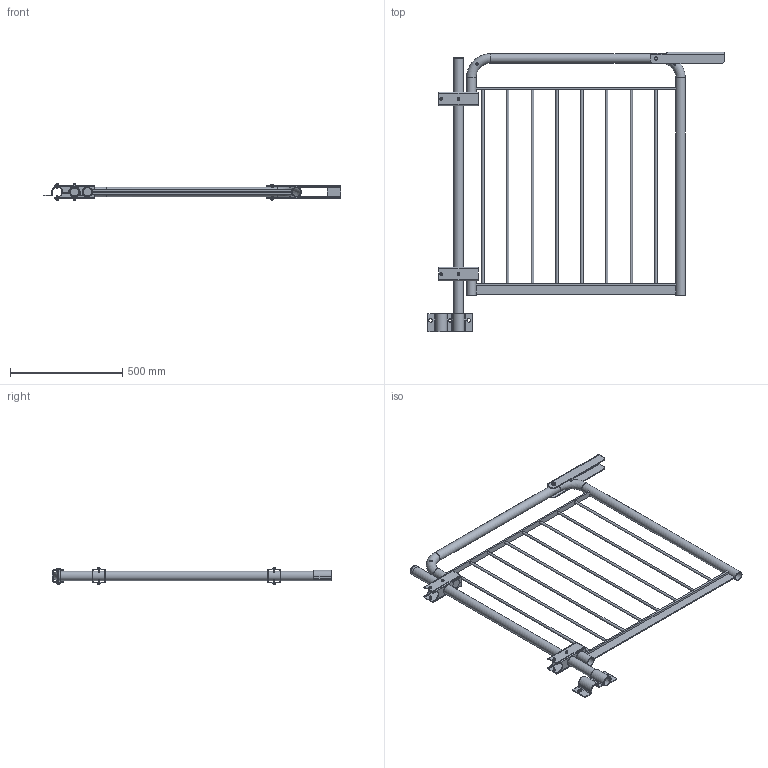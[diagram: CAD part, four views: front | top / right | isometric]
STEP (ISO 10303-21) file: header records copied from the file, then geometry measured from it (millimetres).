
FILE_DESCRIPTION((''),'2;1');
FILE_NAME('S:\Användarkataloger\AndreasA\Mina Inventor filer\Räcken\STEP\grind_bos_sido_1050.stp','2010-09-07T14:04:10',('AndreasA'),(''),'Autodesk Inventor 2011','Autodesk Inventor 2011','');
FILE_SCHEMA(('AUTOMOTIVE_DESIGN { 1 0 10303 214 1 1 1 1 }'));
Length unit declared in the file: millimetre
Products named in the file (16): grind_bos_sido_1050; stolpe_grind_1216; ändavslutare_42,4x2; gångjärn_grind; grindbåge_bos_1050; rör_grindbåge_bos_1050; galleri_grindbåge_1050; pls_grindbåge_1050; rör_grindbåge_bos_122; låsbygel_grind; fäste_r2; Bolted Connection; SS 3576 8; ISO 4014 M8 x 65; ISO 4032 M8; Hex Flange Head Tapping Screw - Type T - Metric M6x1 x 16
Assembly tree (24 placements, depth 3):
  grind_bos_sido_1050
    stolpe_grind_1216
    ändavslutare_42,4x2
    gångjärn_grind  x2
    grindbåge_bos_1050
      rör_grindbåge_bos_1050
      galleri_grindbåge_1050
      pls_grindbåge_1050
      rör_grindbåge_bos_122
    låsbygel_grind
    fäste_r2
    Bolted Connection
      SS 3576 8  x2
      ISO 4014 M8 x 65
      ISO 4032 M8
    Hex Flange Head Tapping Screw - Type T - Metric M6x1 x 16  x8
Bounding box: 1322.7 x 1243 x 73.4 mm (x, y, z)
Volume: 2522205.5 mm3; surface area: 1586762 mm2
Topology: 22 solids, 22 shells, 411 faces, 953 edges, 595 vertices
Faces by surface type: plane 199, cylinder 110, cone 75, torus 21, bspline 6
Full cylindrical faces by diameter (mm): 6 x8, 6.647 x1, 7 x8, 8 x1, 8.4 x2, 10 x8, 11 x8, 11.63 x1, 14.5 x1, 16 x2, 38.4 x6, 42.4 x6, 45 x6
Entity records: 7924 total; most frequent: CARTESIAN_POINT 2099, DIRECTION 1158, ORIENTED_EDGE 1008, EDGE_CURVE 504, AXIS2_PLACEMENT_3D 451, EDGE_LOOP 358, VERTEX_POINT 354, VECTOR 256
